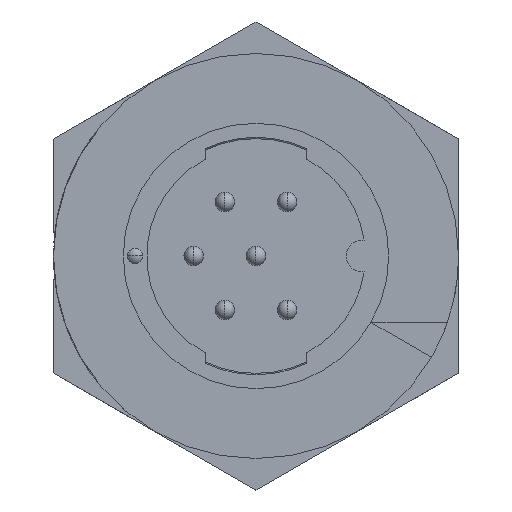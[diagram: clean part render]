
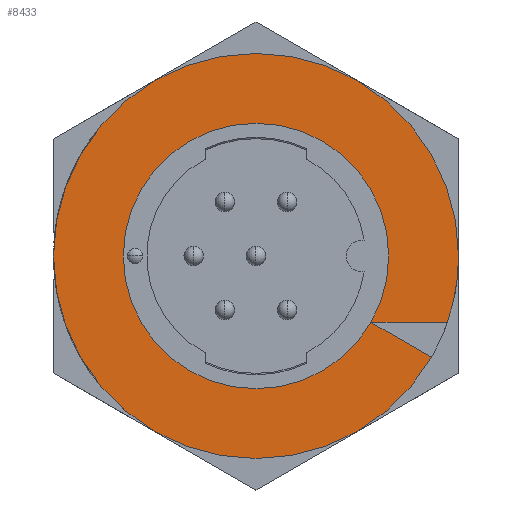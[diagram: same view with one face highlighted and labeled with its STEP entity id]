
A CAD part, left-side view. The second image highlights one B-rep face of the part: STEP entity #8433.
In plain terms, the highlighted planar face has unit normal (-1, 0, 0).
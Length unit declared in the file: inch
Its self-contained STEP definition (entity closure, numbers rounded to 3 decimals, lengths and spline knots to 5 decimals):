
#238 = EDGE_LOOP ( 'NONE', ( #14972, #20141, #17718, #28546, #23887, #25899, #16745, #26805 ) ) ;
#439 = CIRCLE ( 'NONE', #23642, 0.266 ) ;
#836 = DIRECTION ( 'NONE',  ( 0., 0., 1. ) ) ;
#915 = EDGE_CURVE ( 'NONE', #1972, #28706, #439, .T. ) ;
#1074 = DIRECTION ( 'NONE',  ( 0., 0., 1. ) ) ;
#1078 = EDGE_CURVE ( 'NONE', #28706, #6776, #5726, .T. ) ;
#1571 = CIRCLE ( 'NONE', #9426, 0.406 ) ;
#1745 = FACE_OUTER_BOUND ( 'NONE', #238, .T. ) ;
#1765 = CARTESIAN_POINT ( 'NONE',  ( -0.078, -0.406, 0. ) ) ;
#1972 = VERTEX_POINT ( 'NONE', #8477 ) ;
#2127 = CARTESIAN_POINT ( 'NONE',  ( -0.078, -0.23036, -0.133 ) ) ;
#2448 = VERTEX_POINT ( 'NONE', #26843 ) ;
#2754 = CARTESIAN_POINT ( 'NONE',  ( -0.078, 0., 0. ) ) ;
#3214 = CARTESIAN_POINT ( 'NONE',  ( -0.078, 0., 0. ) ) ;
#4266 = CARTESIAN_POINT ( 'NONE',  ( -0.078, 0., 0. ) ) ;
#4459 = DIRECTION ( 'NONE',  ( -1., 0., 0. ) ) ;
#4773 = CARTESIAN_POINT ( 'NONE',  ( -0.078, -0.3836, -0.133 ) ) ;
#5010 = DIRECTION ( 'NONE',  ( 0., 0., 1. ) ) ;
#5402 = CARTESIAN_POINT ( 'NONE',  ( -0.078, 0., 0. ) ) ;
#5726 = LINE ( 'NONE', #25366, #17737 ) ;
#5891 = AXIS2_PLACEMENT_3D ( 'NONE', #5402, #21174, #7684 ) ;
#6771 = CIRCLE ( 'NONE', #5891, 0.266 ) ;
#6776 = VERTEX_POINT ( 'NONE', #28517 ) ;
#7132 = DIRECTION ( 'NONE',  ( 0., -1., 0. ) ) ;
#7684 = DIRECTION ( 'NONE',  ( 0., 0., 1. ) ) ;
#8433 = ADVANCED_FACE ( 'NONE', ( #1745 ), #23534, .T. ) ;
#8477 = CARTESIAN_POINT ( 'NONE',  ( -0.078, 0., -0.266 ) ) ;
#8635 = AXIS2_PLACEMENT_3D ( 'NONE', #3214, #14600, #1074 ) ;
#8771 = LINE ( 'NONE', #13945, #26047 ) ;
#9263 = AXIS2_PLACEMENT_3D ( 'NONE', #26900, #13418, #29176 ) ;
#9426 = AXIS2_PLACEMENT_3D ( 'NONE', #27832, #14352, #836 ) ;
#10496 = EDGE_CURVE ( 'NONE', #28706, #27383, #8771, .T. ) ;
#10600 = CIRCLE ( 'NONE', #26542, 0.406 ) ;
#11300 = DIRECTION ( 'NONE',  ( 0., -0.866, -0.5 ) ) ;
#11308 = VERTEX_POINT ( 'NONE', #11400 ) ;
#11400 = CARTESIAN_POINT ( 'NONE',  ( -0.078, 0.406, 0. ) ) ;
#13140 = DIRECTION ( 'NONE',  ( -1., 0., 0. ) ) ;
#13418 = DIRECTION ( 'NONE',  ( -1., 0., 0. ) ) ;
#13945 = CARTESIAN_POINT ( 'NONE',  ( -0.078, -0.23036, -0.133 ) ) ;
#14352 = DIRECTION ( 'NONE',  ( -1., 0., 0. ) ) ;
#14600 = DIRECTION ( 'NONE',  ( -1., 0., 0. ) ) ;
#14972 = ORIENTED_EDGE ( 'NONE', *, *, #1078, .F. ) ;
#16718 = CIRCLE ( 'NONE', #9263, 0.406 ) ;
#16745 = ORIENTED_EDGE ( 'NONE', *, *, #27144, .T. ) ;
#17718 = ORIENTED_EDGE ( 'NONE', *, *, #19230, .F. ) ;
#17737 = VECTOR ( 'NONE', #11300, 39.37008 ) ;
#18347 = EDGE_CURVE ( 'NONE', #27383, #18699, #1571, .T. ) ;
#18562 = DIRECTION ( 'NONE',  ( -1., 0., 0. ) ) ;
#18699 = VERTEX_POINT ( 'NONE', #1765 ) ;
#18905 = AXIS2_PLACEMENT_3D ( 'NONE', #2754, #18562, #5010 ) ;
#19230 = EDGE_CURVE ( 'NONE', #2448, #1972, #28347, .T. ) ;
#19735 = EDGE_CURVE ( 'NONE', #11308, #6776, #16718, .T. ) ;
#20141 = ORIENTED_EDGE ( 'NONE', *, *, #915, .F. ) ;
#21174 = DIRECTION ( 'NONE',  ( -1., 0., 0. ) ) ;
#22442 = EDGE_CURVE ( 'NONE', #28706, #2448, #6771, .T. ) ;
#23534 = PLANE ( 'NONE',  #8635 ) ;
#23642 = AXIS2_PLACEMENT_3D ( 'NONE', #4266, #4459, #24962 ) ;
#23887 = ORIENTED_EDGE ( 'NONE', *, *, #10496, .T. ) ;
#24962 = DIRECTION ( 'NONE',  ( 0., 0., 1. ) ) ;
#25366 = CARTESIAN_POINT ( 'NONE',  ( -0.078, -0.23036, -0.133 ) ) ;
#25899 = ORIENTED_EDGE ( 'NONE', *, *, #18347, .T. ) ;
#26047 = VECTOR ( 'NONE', #7132, 39.37008 ) ;
#26542 = AXIS2_PLACEMENT_3D ( 'NONE', #26635, #13140, #28888 ) ;
#26635 = CARTESIAN_POINT ( 'NONE',  ( -0.078, 0., 0. ) ) ;
#26805 = ORIENTED_EDGE ( 'NONE', *, *, #19735, .T. ) ;
#26843 = CARTESIAN_POINT ( 'NONE',  ( -0.078, 0., 0.266 ) ) ;
#26900 = CARTESIAN_POINT ( 'NONE',  ( -0.078, 0., 0. ) ) ;
#27144 = EDGE_CURVE ( 'NONE', #18699, #11308, #10600, .T. ) ;
#27383 = VERTEX_POINT ( 'NONE', #4773 ) ;
#27832 = CARTESIAN_POINT ( 'NONE',  ( -0.078, 0., 0. ) ) ;
#28347 = CIRCLE ( 'NONE', #18905, 0.266 ) ;
#28517 = CARTESIAN_POINT ( 'NONE',  ( -0.078, -0.35161, -0.203 ) ) ;
#28546 = ORIENTED_EDGE ( 'NONE', *, *, #22442, .F. ) ;
#28706 = VERTEX_POINT ( 'NONE', #2127 ) ;
#28888 = DIRECTION ( 'NONE',  ( 0., 0., 1. ) ) ;
#29176 = DIRECTION ( 'NONE',  ( 0., 0., 1. ) ) ;
